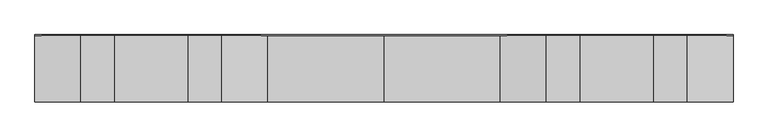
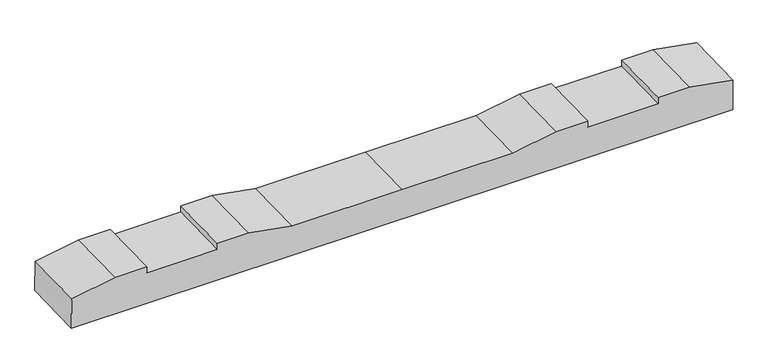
"""IFC4 building model written with IfcOpenShell, lengths in millimetres: proxy geometry, 轨枕-立面角度 : 轨枕-立面角度."""

from ifc_helpers import new_model, si_unit, frame, origin, place, context, project, spatial, polyline, outline, extrude, source, transform, mapped, element, save


def generic_models_8f825d83(model_context):
    return source(origin(), model_context, "Body", "SweptSolid", [
        extrude(outline(polyline([(0.0, 0.0), (2099.7669328, 0.0), (2099.7669328, -100.0206889), (1961.8834664, -124.5), (1861.8834664, -124.5), (1861.8834664, -104.5), (1637.8834664, -104.5), (1637.8834664, -124.5), (1537.8834664, -124.5), (1399.8834664, -100.0), (1049.8834664, -100.0), (699.8834664, -100.0), (561.8834664, -124.5), (461.8834664, -124.5), (461.8834664, -104.5), (237.8834664, -104.5), (237.8834664, -124.5), (137.8834664, -124.5), (0.0, -100.0206889), (0.0, 0.0)])), frame((-1049.8834664, -97.4107224, -106.9177308), z_axis=(0.0, 0.9997000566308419, 0.024490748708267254), x_axis=(1.0, 0.0, 0.0)), (0.0, 0.0, 1.0), 200.0),
    ])


if __name__ == "__main__":
    model = new_model("IFC4")
    model_context = context("Model", 3, world=origin())
    ifc_project = project(units=[si_unit("LENGTHUNIT", "METRE", prefix="MILLI")], contexts=[model_context])
    site = spatial("IfcSite", under=ifc_project)
    building = spatial("IfcBuilding", under=site)
    placement = place(None, origin())
    generic_models_shape = generic_models_8f825d83(model_context)
    element("IfcBuildingElementProxy", 1, Name="轨枕-立面角度 : 轨枕-立面角度", ObjectType="轨枕-立面角度 : 轨枕-立面角度", at=placement, inside=building, context=model_context, shape_type="MappedRepresentation", body=[
        mapped(generic_models_shape, transform((0.0, 0.0, 0.0), x_axis=(1.0, 0.0, 0.0), y_axis=(0.0, 1.0, 0.0), z_axis=(0.0, 0.0, 1.0))),
    ])
    save(model, "model.ifc")
